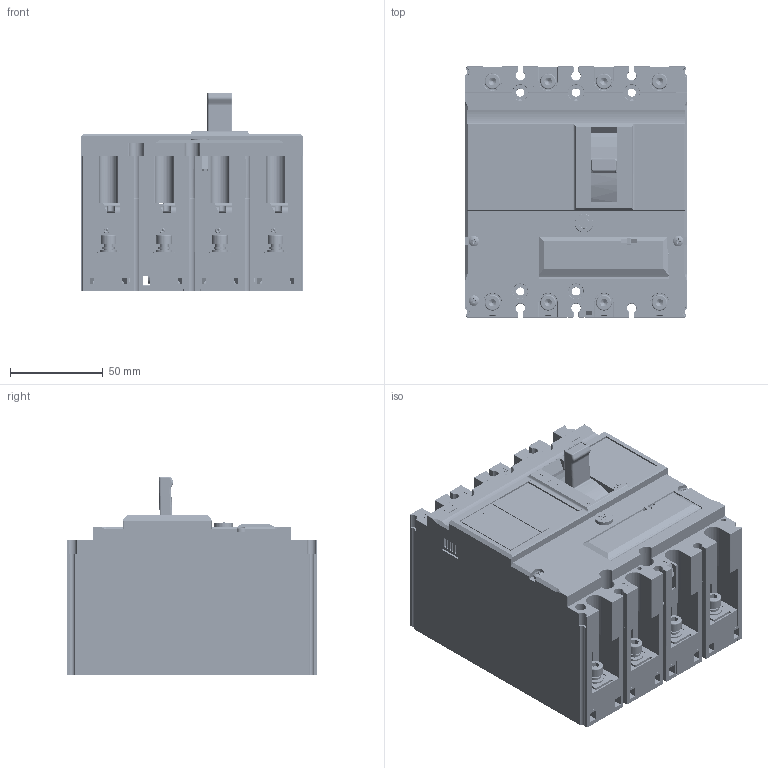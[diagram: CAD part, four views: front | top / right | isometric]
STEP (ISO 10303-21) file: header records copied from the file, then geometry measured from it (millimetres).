
FILE_DESCRIPTION (( 'STEP AP214' ), '1' );
FILE_NAME ('MNX125_160L_M_H_4P ﾈﾇﾌ.STEP', '2024-12-04T10:51:49', ( '' ), ( '' ), 'SwSTEP 2.0', 'SolidWorks 2022', '' );
FILE_SCHEMA (( 'AUTOMOTIVE_DESIGN' ));
Length unit declared in the file: millimetre
Products named in the file (1): MNX125_160L_M_H_4P ИЗМ
Bounding box: 120 x 135 x 106.72 mm (x, y, z)
Volume: 405689.7 mm3; surface area: 416647.6 mm2
Topology: 87 solids, 90 shells, 12241 faces, 34095 edges, 22077 vertices
Faces by surface type: plane 6907, cylinder 4282, cone 419, bspline 297, torus 294, sphere 42
Entity records: 451580 total; most frequent: CARTESIAN_POINT 114064, ORIENTED_EDGE 73136, DIRECTION 68047, EDGE_CURVE 36568, VECTOR 24439, LINE 24439, VERTEX_POINT 23758, AXIS2_PLACEMENT_3D 21804
